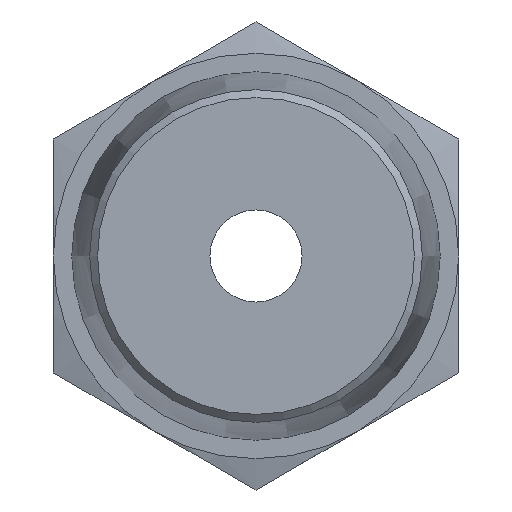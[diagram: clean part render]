
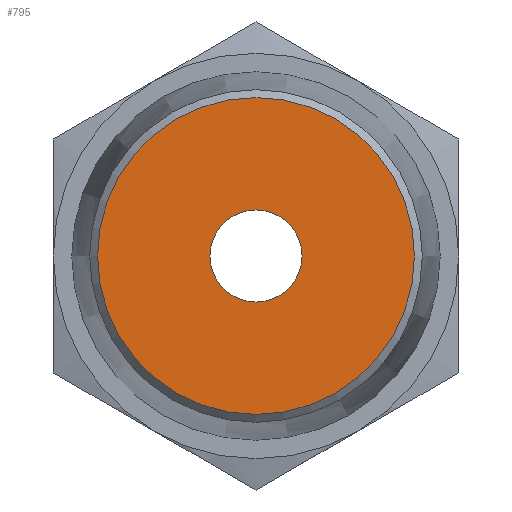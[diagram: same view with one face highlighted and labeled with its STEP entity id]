
A CAD part, front view. The second image highlights one B-rep face of the part: STEP entity #795.
In plain terms, the highlighted planar face has unit normal (0, -1, 0).
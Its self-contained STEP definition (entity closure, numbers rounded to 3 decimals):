
#15=FACE_BOUND('',#144,.T.);
#94=FACE_OUTER_BOUND('',#143,.T.);
#143=EDGE_LOOP('',(#639));
#144=EDGE_LOOP('',(#640));
#188=CIRCLE('',#880,4.3);
#190=CIRCLE('',#884,1.25);
#378=VERTEX_POINT('',#1349);
#380=VERTEX_POINT('',#1357);
#473=EDGE_CURVE('',#378,#378,#188,.T.);
#476=EDGE_CURVE('',#380,#380,#190,.T.);
#639=ORIENTED_EDGE('',*,*,#473,.F.);
#640=ORIENTED_EDGE('',*,*,#476,.T.);
#763=PLANE('',#883);
#795=ADVANCED_FACE('',(#94,#15),#763,.T.);
#880=AXIS2_PLACEMENT_3D('',#1351,#1053,#1054);
#883=AXIS2_PLACEMENT_3D('',#1356,#1060,#1061);
#884=AXIS2_PLACEMENT_3D('',#1358,#1062,#1063);
#1053=DIRECTION('center_axis',(0.,1.,0.));
#1054=DIRECTION('ref_axis',(-1.,0.,0.));
#1060=DIRECTION('center_axis',(0.,-1.,0.));
#1061=DIRECTION('ref_axis',(0.,0.,-1.));
#1062=DIRECTION('center_axis',(0.,1.,0.));
#1063=DIRECTION('ref_axis',(1.,0.,0.));
#1349=CARTESIAN_POINT('',(4.3,-7.2,0.));
#1351=CARTESIAN_POINT('Origin',(0.,-7.2,0.));
#1356=CARTESIAN_POINT('Origin',(4.5,-7.2,0.));
#1357=CARTESIAN_POINT('',(-1.25,-7.2,0.));
#1358=CARTESIAN_POINT('Origin',(0.,-7.2,0.));
